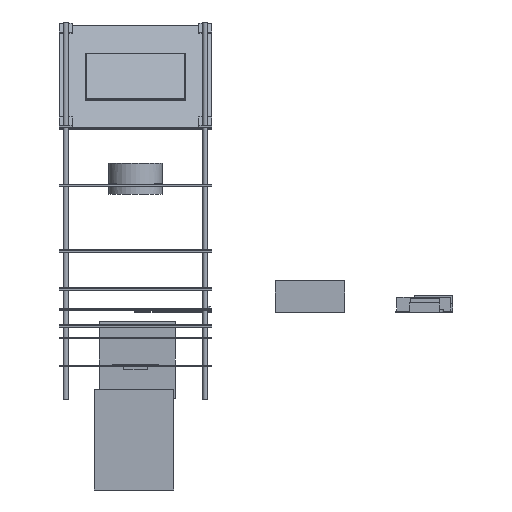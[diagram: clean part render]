
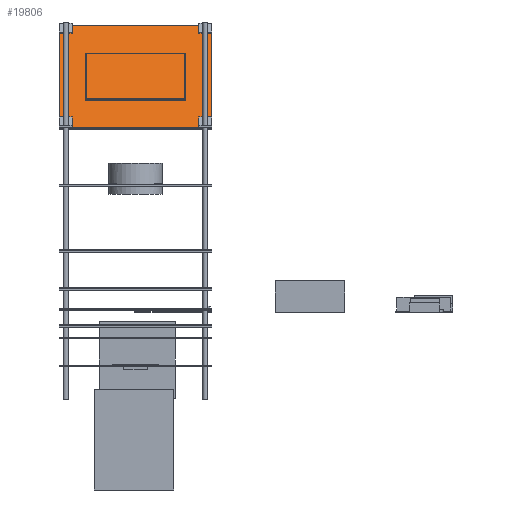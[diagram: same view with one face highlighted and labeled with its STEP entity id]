
A CAD part, left-side view. The second image highlights one B-rep face of the part: STEP entity #19806.
In plain terms, the highlighted planar face has unit normal (-0.707, 0, 0.707).
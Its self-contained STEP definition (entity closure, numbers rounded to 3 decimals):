
#19624=CARTESIAN_POINT('',(530.,100.,292.));
#19625=VERTEX_POINT('',#19624);
#19632=CARTESIAN_POINT('',(530.,340.,292.));
#19633=VERTEX_POINT('',#19632);
#19634=CARTESIAN_POINT('',(530.,340.,292.));
#19635=DIRECTION('',(-0.,-1.,-0.));
#19636=VECTOR('',#19635,240.);
#19637=LINE('',#19634,#19636);
#19638=EDGE_CURVE('',#19633,#19625,#19637,.T.);
#19662=CARTESIAN_POINT('',(691.22,100.,453.22));
#19663=VERTEX_POINT('',#19662);
#19670=CARTESIAN_POINT('',(530.,100.,292.));
#19671=DIRECTION('',(0.707,0.,0.707));
#19672=VECTOR('',#19671,228.);
#19673=LINE('',#19670,#19672);
#19674=EDGE_CURVE('',#19625,#19663,#19673,.T.);
#19693=CARTESIAN_POINT('',(691.22,340.,453.22));
#19694=VERTEX_POINT('',#19693);
#19701=CARTESIAN_POINT('',(691.22,100.,453.22));
#19702=DIRECTION('',(0.,1.,0.));
#19703=VECTOR('',#19702,240.);
#19704=LINE('',#19701,#19703);
#19705=EDGE_CURVE('',#19663,#19694,#19704,.T.);
#19723=CARTESIAN_POINT('',(691.22,340.,453.22));
#19724=DIRECTION('',(-0.707,0.,-0.707));
#19725=VECTOR('',#19724,228.);
#19726=LINE('',#19723,#19725);
#19727=EDGE_CURVE('',#19694,#19633,#19726,.T.);
#19733=CARTESIAN_POINT('',(169.376,0.,-68.624));
#19734=DIRECTION('',(-0.707,0.,0.707));
#19735=DIRECTION('',(0.,1.,0.));
#19736=AXIS2_PLACEMENT_3D('',#19733,#19734,#19735);
#19737=PLANE('',#19736);
#19738=CARTESIAN_POINT('',(686.094,330.,448.094));
#19739=VERTEX_POINT('',#19738);
#19740=CARTESIAN_POINT('',(685.033,330.,447.033));
#19741=DIRECTION('',(0.707,-0.,-0.707));
#19742=DIRECTION('',(0.707,0.,0.707));
#19743=AXIS2_PLACEMENT_3D('',#19740,#19741,#19742);
#19744=CIRCLE('',#19743,1.5);
#19745=EDGE_CURVE('',#19739,#19739,#19744,.T.);
#19746=ORIENTED_EDGE('',*,*,#19745,.T.);
#19747=EDGE_LOOP('',(#19746));
#19748=FACE_BOUND('',#19747,.T.);
#19749=CARTESIAN_POINT('',(686.094,110.,448.094));
#19750=VERTEX_POINT('',#19749);
#19751=CARTESIAN_POINT('',(685.033,110.,447.033));
#19752=DIRECTION('',(0.707,-0.,-0.707));
#19753=DIRECTION('',(0.707,0.,0.707));
#19754=AXIS2_PLACEMENT_3D('',#19751,#19752,#19753);
#19755=CIRCLE('',#19754,1.5);
#19756=EDGE_CURVE('',#19750,#19750,#19755,.T.);
#19757=ORIENTED_EDGE('',*,*,#19756,.T.);
#19758=EDGE_LOOP('',(#19757));
#19759=FACE_BOUND('',#19758,.T.);
#19760=CARTESIAN_POINT('',(536.01,110.,298.01));
#19761=VERTEX_POINT('',#19760);
#19762=CARTESIAN_POINT('',(538.132,110.,300.132));
#19763=VERTEX_POINT('',#19762);
#19764=CARTESIAN_POINT('',(537.071,110.,299.071));
#19765=DIRECTION('',(-0.707,0.,0.707));
#19766=DIRECTION('',(0.707,0.,0.707));
#19767=AXIS2_PLACEMENT_3D('',#19764,#19765,#19766);
#19768=CIRCLE('',#19767,1.5);
#19769=EDGE_CURVE('',#19761,#19763,#19768,.T.);
#19770=ORIENTED_EDGE('',*,*,#19769,.F.);
#19771=CARTESIAN_POINT('',(537.071,110.,299.071));
#19772=DIRECTION('',(-0.707,0.,0.707));
#19773=DIRECTION('',(0.707,0.,0.707));
#19774=AXIS2_PLACEMENT_3D('',#19771,#19772,#19773);
#19775=CIRCLE('',#19774,1.5);
#19776=EDGE_CURVE('',#19763,#19761,#19775,.T.);
#19777=ORIENTED_EDGE('',*,*,#19776,.F.);
#19778=EDGE_LOOP('',(#19770,#19777));
#19779=FACE_BOUND('',#19778,.T.);
#19780=CARTESIAN_POINT('',(536.01,330.,298.01));
#19781=VERTEX_POINT('',#19780);
#19782=CARTESIAN_POINT('',(538.132,330.,300.132));
#19783=VERTEX_POINT('',#19782);
#19784=CARTESIAN_POINT('',(537.071,330.,299.071));
#19785=DIRECTION('',(-0.707,0.,0.707));
#19786=DIRECTION('',(0.707,0.,0.707));
#19787=AXIS2_PLACEMENT_3D('',#19784,#19785,#19786);
#19788=CIRCLE('',#19787,1.5);
#19789=EDGE_CURVE('',#19781,#19783,#19788,.T.);
#19790=ORIENTED_EDGE('',*,*,#19789,.F.);
#19791=CARTESIAN_POINT('',(537.071,330.,299.071));
#19792=DIRECTION('',(-0.707,0.,0.707));
#19793=DIRECTION('',(0.707,0.,0.707));
#19794=AXIS2_PLACEMENT_3D('',#19791,#19792,#19793);
#19795=CIRCLE('',#19794,1.5);
#19796=EDGE_CURVE('',#19783,#19781,#19795,.T.);
#19797=ORIENTED_EDGE('',*,*,#19796,.F.);
#19798=EDGE_LOOP('',(#19790,#19797));
#19799=FACE_BOUND('',#19798,.T.);
#19800=ORIENTED_EDGE('',*,*,#19638,.T.);
#19801=ORIENTED_EDGE('',*,*,#19674,.T.);
#19802=ORIENTED_EDGE('',*,*,#19705,.T.);
#19803=ORIENTED_EDGE('',*,*,#19727,.T.);
#19804=EDGE_LOOP('',(#19800,#19801,#19802,#19803));
#19805=FACE_BOUND('',#19804,.T.);
#19806=ADVANCED_FACE('',(#19748,#19759,#19779,#19799,#19805),#19737,.T.);
